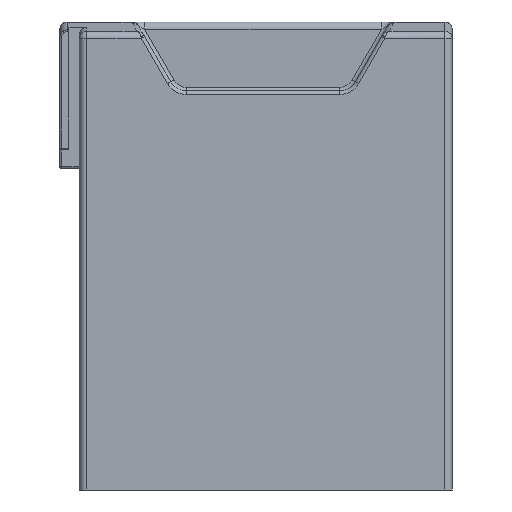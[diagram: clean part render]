
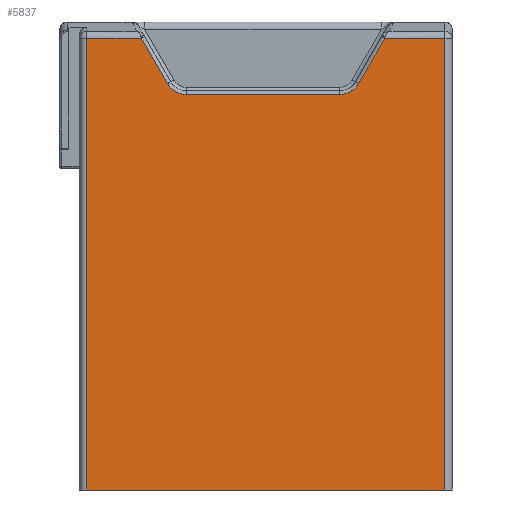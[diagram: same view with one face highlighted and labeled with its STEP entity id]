
A CAD part, left-side view. The second image highlights one B-rep face of the part: STEP entity #5837.
In plain terms, the highlighted planar face has unit normal (-1, 0, 0).
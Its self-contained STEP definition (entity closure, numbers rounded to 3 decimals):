
#813=DIRECTION('',(0.,0.,1.));
#814=VECTOR('',#813,123.512);
#815=CARTESIAN_POINT('',(-49.5,-379.902,6.526));
#816=LINE('',#815,#814);
#817=DIRECTION('',(0.,1.,0.));
#818=VECTOR('',#817,98.);
#819=CARTESIAN_POINT('',(-49.5,-379.902,6.526));
#820=LINE('',#819,#818);
#821=DIRECTION('',(0.,0.,-1.));
#822=VECTOR('',#821,123.512);
#823=CARTESIAN_POINT('',(-49.5,-281.902,130.038));
#824=LINE('',#823,#822);
#825=DIRECTION('',(0.,0.5,0.866));
#826=VECTOR('',#825,14.263);
#827=CARTESIAN_POINT('',(-49.5,-304.037,117.686));
#828=LINE('',#827,#826);
#829=CARTESIAN_POINT('',(-49.5,-309.234,120.686));
#830=DIRECTION('',(1.,0.,0.));
#831=DIRECTION('',(0.,0.,-1.));
#832=AXIS2_PLACEMENT_3D('',#829,#830,#831);
#834=CARTESIAN_POINT('',(-49.5,-351.129,120.686));
#835=DIRECTION('',(1.,0.,0.));
#836=DIRECTION('',(0.,-0.866,-0.5));
#837=AXIS2_PLACEMENT_3D('',#834,#835,#836);
#839=DIRECTION('',(0.,0.5,-0.866));
#840=VECTOR('',#839,14.263);
#841=CARTESIAN_POINT('',(-49.5,-363.457,130.038));
#842=LINE('',#841,#840);
#843=DIRECTION('',(0.,-1.,0.));
#844=VECTOR('',#843,16.446);
#845=CARTESIAN_POINT('',(-49.5,-363.457,130.038));
#846=LINE('',#845,#844);
#2085=DIRECTION('',(0.,-1.,0.));
#2086=VECTOR('',#2085,41.895);
#2087=CARTESIAN_POINT('',(-49.5,-309.234,114.686));
#2088=LINE('',#2087,#2086);
#2206=DIRECTION('',(0.,1.,0.));
#2207=VECTOR('',#2206,15.004);
#2208=CARTESIAN_POINT('',(-49.5,-296.906,130.038));
#2209=LINE('',#2208,#2207);
#3341=CARTESIAN_POINT('',(-49.5,-309.234,114.686));
#3342=CARTESIAN_POINT('',(-49.5,-351.129,114.686));
#3343=VERTEX_POINT('',#3341);
#3344=VERTEX_POINT('',#3342);
#3428=CARTESIAN_POINT('',(-49.5,-363.457,130.038));
#3429=CARTESIAN_POINT('',(-49.5,-356.325,117.686));
#3430=VERTEX_POINT('',#3428);
#3431=VERTEX_POINT('',#3429);
#3432=CARTESIAN_POINT('',(-49.5,-304.037,117.686));
#3433=VERTEX_POINT('',#3432);
#3434=CARTESIAN_POINT('',(-49.5,-296.906,130.038));
#3435=VERTEX_POINT('',#3434);
#3923=CARTESIAN_POINT('',(-49.5,-281.902,6.526));
#3925=VERTEX_POINT('',#3923);
#3929=CARTESIAN_POINT('',(-49.5,-281.902,130.038));
#3930=VERTEX_POINT('',#3929);
#3934=CARTESIAN_POINT('',(-49.5,-379.902,6.526));
#3936=VERTEX_POINT('',#3934);
#3937=CARTESIAN_POINT('',(-49.5,-379.902,130.038));
#3938=VERTEX_POINT('',#3937);
#5813=CARTESIAN_POINT('',(-49.5,-384.902,-5.825));
#5814=DIRECTION('',(-1.,0.,0.));
#5815=DIRECTION('',(0.,1.,0.));
#5816=AXIS2_PLACEMENT_3D('',#5813,#5814,#5815);
#5817=PLANE('',#5816);
#5818=ORIENTED_EDGE('',*,*,#4594,.F.);
#5819=ORIENTED_EDGE('',*,*,#4639,.T.);
#5821=ORIENTED_EDGE('',*,*,#5820,.F.);
#5823=ORIENTED_EDGE('',*,*,#5822,.F.);
#5825=ORIENTED_EDGE('',*,*,#5824,.F.);
#5827=ORIENTED_EDGE('',*,*,#5826,.F.);
#5829=ORIENTED_EDGE('',*,*,#5828,.T.);
#5831=ORIENTED_EDGE('',*,*,#5830,.F.);
#5832=ORIENTED_EDGE('',*,*,#5803,.F.);
#5834=ORIENTED_EDGE('',*,*,#5833,.T.);
#5835=EDGE_LOOP('',(#5818,#5819,#5821,#5823,#5825,#5827,#5829,#5831,#5832,
#5834));
#5836=FACE_OUTER_BOUND('',#5835,.F.);
#5837=ADVANCED_FACE('',(#5836),#5817,.T.);
#833=CIRCLE('',#832,6.);
#838=CIRCLE('',#837,6.);
#4594=EDGE_CURVE('',#3936,#3938,#816,.T.);
#4639=EDGE_CURVE('',#3936,#3925,#820,.T.);
#5803=EDGE_CURVE('',#3430,#3431,#842,.T.);
#5820=EDGE_CURVE('',#3930,#3925,#824,.T.);
#5822=EDGE_CURVE('',#3435,#3930,#2209,.T.);
#5824=EDGE_CURVE('',#3433,#3435,#828,.T.);
#5826=EDGE_CURVE('',#3343,#3433,#833,.T.);
#5828=EDGE_CURVE('',#3343,#3344,#2088,.T.);
#5830=EDGE_CURVE('',#3431,#3344,#838,.T.);
#5833=EDGE_CURVE('',#3430,#3938,#846,.T.);
